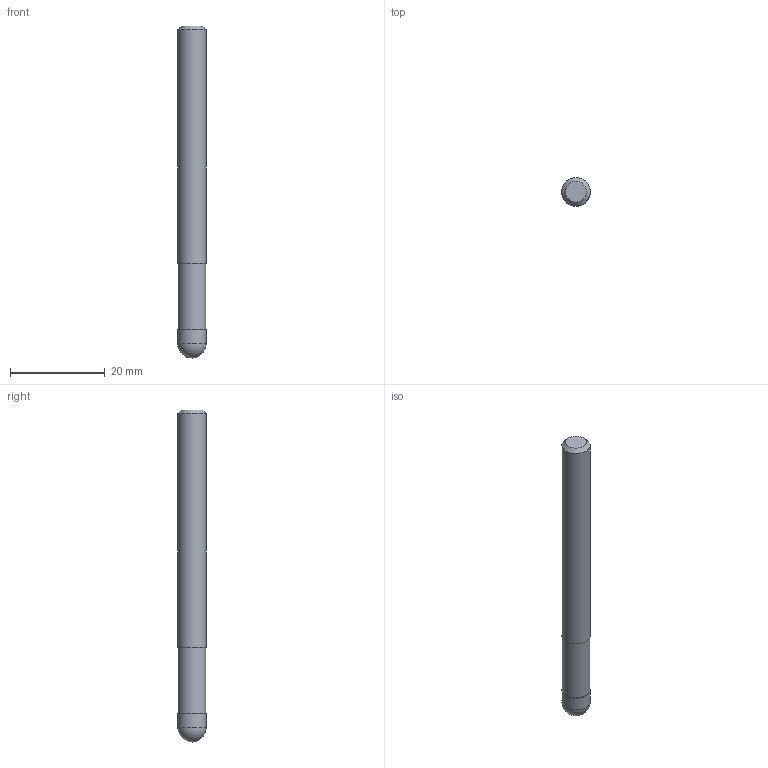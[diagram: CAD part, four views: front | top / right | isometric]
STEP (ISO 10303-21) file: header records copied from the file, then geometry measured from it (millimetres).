
FILE_DESCRIPTION((''),'2;1');
FILE_NAME('C:\Users\nsx150\AppData\Local\Temp\Mastercam 2021\3SYKECWX22\TEMP.step','2021-04-22T10:05:56',(''),(''),'STEP Write','Mastercam 2021 ... CNC Software, Inc.','');
FILE_SCHEMA(('AUTOMOTIVE_DESIGN'));
Length unit declared in the file: millimetre
Products named in the file (1): None
Bounding box: 6 x 6 x 70 mm (x, y, z)
Volume: 1919.5 mm3; surface area: 1385.8 mm2
Topology: 2 solids, 2 shells, 9 faces, 13 edges, 8 vertices
Faces by surface type: plane 4, cylinder 3, sphere 1, cone 1
Full cylindrical faces by diameter (mm): 5.8 x1, 6 x2
Entity records: 211 total; most frequent: DIRECTION 36, CARTESIAN_POINT 25, AXIS2_PLACEMENT_3D 18, ORIENTED_EDGE 14, EDGE_LOOP 14, STYLED_ITEM 12, ADVANCED_FACE 9, FACE_BOUND 8
